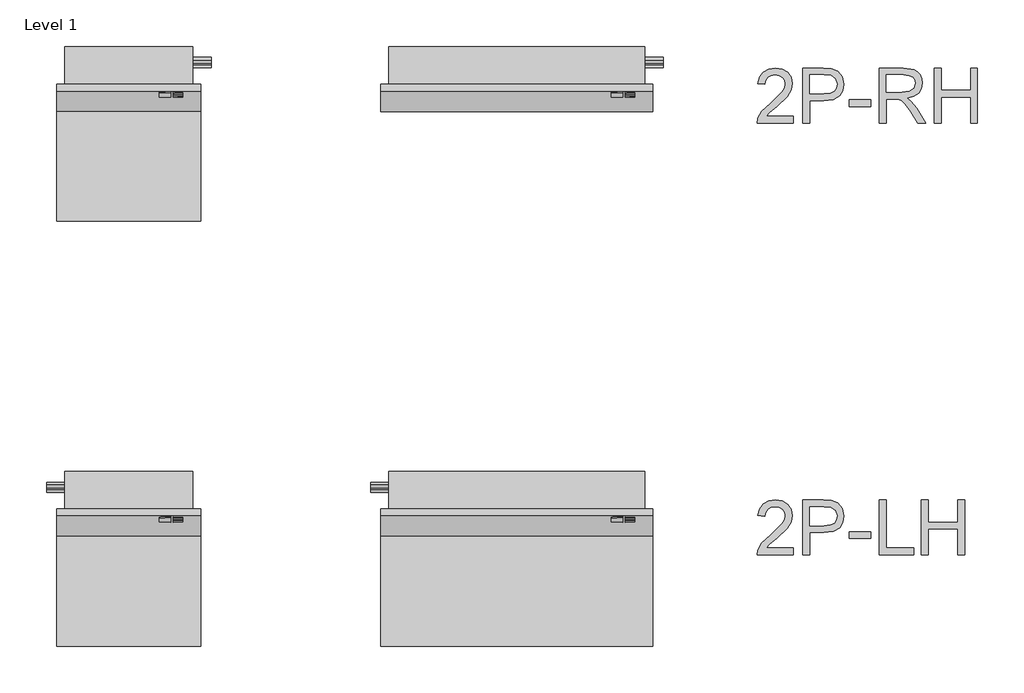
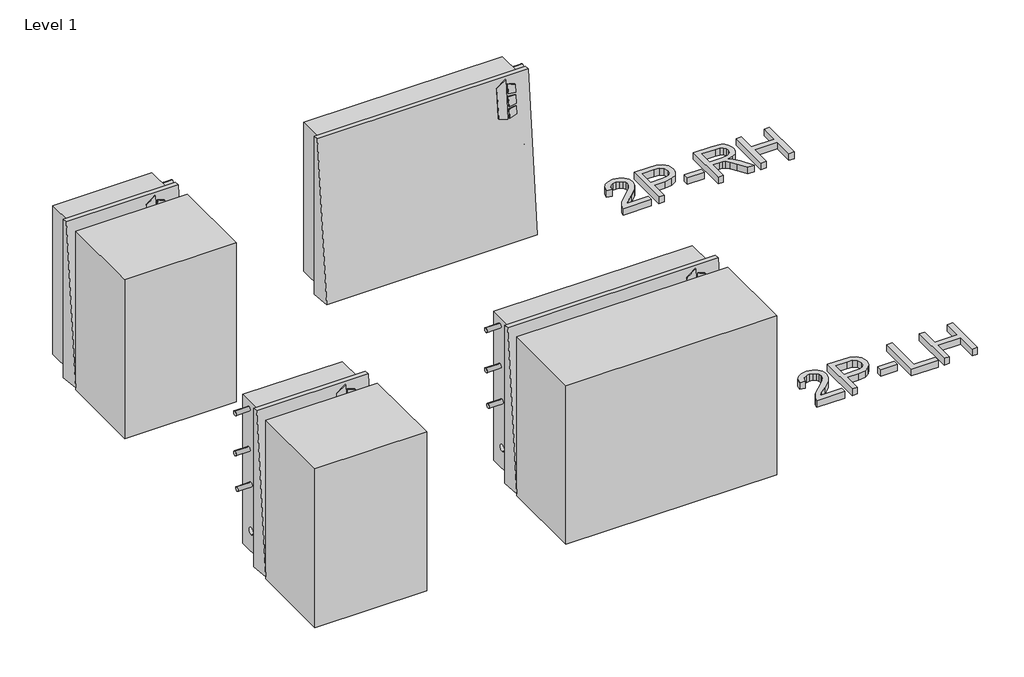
# One storey: 6 proxies.
"""IFC4 building model written with IfcOpenShell, lengths in millimetres."""

from ifc_helpers import new_model, si_unit, origin, origin_with_axes, place, context, project, spatial, polyline, outline, extrude, transform, mapped, element, save
from components import mechanical_equipment_5d187f2d, mechanical_equipment_5f7a3c42, mechanical_equipment_e7c3ba8e, mechanical_equipment_0fc9f988

model = new_model("IFC4")

# Units and contexts
model_context = context("Model", 3, world=origin())
ifc_project = project(units=[si_unit("LENGTHUNIT", "METRE", prefix="MILLI")], contexts=[model_context])

# Site, building, storey
site = spatial("IfcSite", under=ifc_project)
building = spatial("IfcBuilding", under=site)
storey = spatial("IfcBuildingStorey", under=building, Name="Level 1", Elevation=0.0)

# Proxies
placement = place(None, origin())
mechanical_equipment_shape = mechanical_equipment_5d187f2d(model_context)
element("IfcBuildingElementProxy", 1, Name="Exposed_Wall_Mounted_Fan_Coil_Unit_-_STY_-_IEC_-_2-Pipe_RH_2022 : Size 01 - 115V/60Hz/1Ph - 2 Row Coil", ObjectType="Exposed_Wall_Mounted_Fan_Coil_Unit_-_STY_-_IEC_-_2-Pipe_RH_2022 : Size 01 - 115V/60Hz/1Ph - 2 Row Coil", at=placement, inside=storey, context=model_context, shape_type="MappedRepresentation", body=[
    mapped(mechanical_equipment_shape, transform((-20609.6205467, 2912.9310883, 0.0), x_axis=(1.0, 0.0, 0.0), y_axis=(0.0, 1.0, 0.0), z_axis=(0.0, 0.0, 1.0))),
])
mechanical_equipment_2_shape = mechanical_equipment_5f7a3c42(model_context)
element("IfcBuildingElementProxy", 2, Name="Exposed_Wall_Mounted_Fan_Coil_Unit_-_STY_-_IEC_-_2-Pipe_RH_2022 : Size 03 - 115V/60Hz/1Ph - 2 Row Coil", ObjectType="Exposed_Wall_Mounted_Fan_Coil_Unit_-_STY_-_IEC_-_2-Pipe_RH_2022 : Size 03 - 115V/60Hz/1Ph - 2 Row Coil", at=placement, inside=storey, context=model_context, shape_type="MappedRepresentation", body=[
    mapped(mechanical_equipment_2_shape, transform((-19354.0876299, 2912.9310883, 0.0), x_axis=(1.0, 0.0, 0.0), y_axis=(0.0, 1.0, 0.0), z_axis=(0.0, 0.0, 1.0))),
])
mechanical_equipment_3_shape = mechanical_equipment_e7c3ba8e(model_context)
element("IfcBuildingElementProxy", 3, Name="Exposed_Wall_Mounted_Fan_Coil_Unit_-_STY_-_IEC_-_2-Pipe_LH_2022 : Size 01 - 115V/60Hz/1Ph - 2 Row Coil", ObjectType="Exposed_Wall_Mounted_Fan_Coil_Unit_-_STY_-_IEC_-_2-Pipe_LH_2022 : Size 01 - 115V/60Hz/1Ph - 2 Row Coil", at=placement, inside=storey, context=model_context, shape_type="MappedRepresentation", body=[
    mapped(mechanical_equipment_3_shape, transform((-20609.6205467, 1731.8310883, 0.0), x_axis=(1.0, 0.0, 0.0), y_axis=(0.0, 1.0, 0.0), z_axis=(0.0, 0.0, 1.0))),
])
mechanical_equipment_4_shape = mechanical_equipment_0fc9f988(model_context)
element("IfcBuildingElementProxy", 4, Name="Exposed_Wall_Mounted_Fan_Coil_Unit_-_STY_-_IEC_-_2-Pipe_LH_2022 : Size 03 - 115V/60Hz/1Ph - 2 Row Coil", ObjectType="Exposed_Wall_Mounted_Fan_Coil_Unit_-_STY_-_IEC_-_2-Pipe_LH_2022 : Size 03 - 115V/60Hz/1Ph - 2 Row Coil", at=placement, inside=storey, context=model_context, shape_type="MappedRepresentation", body=[
    mapped(mechanical_equipment_4_shape, transform((-19354.0876299, 1731.8310883, 0.0), x_axis=(1.0, 0.0, 0.0), y_axis=(0.0, 1.0, 0.0), z_axis=(0.0, 0.0, 1.0))),
])
element("IfcBuildingElementProxy", 5, Name="24\" Arial", ObjectType="24\" Arial", at=placement, inside=storey, context=model_context, shape_type="SweptSolid", body=[
    extrude(outline(polyline([(-17913.2632307, 1280.7349641), (-17913.2632307, 1261.598037), (-18013.7320979, 1261.598037), (-18011.6763733, 1274.7920512), (-18000.0521852, 1295.1063478), (-17976.0936495, 1317.289485), (-17943.0525488, 1349.1719045), (-17936.8573425, 1360.1606869), (-17934.7922737, 1370.8504547), (-17936.7405399, 1380.4329346), (-17942.5853387, 1388.3988674), (-17951.5697896, 1393.7671118), (-17962.9370121, 1395.5565266), (-17974.8742311, 1393.8091607), (-17984.1483522, 1388.567063), (-17990.133314, 1380.2413784), (-17992.2030549, 1369.2432519), (-18011.339982, 1371.6353678), (-18006.7005854, 1390.1462333), (-17996.6695838, 1403.6672945), (-17981.7702526, 1411.9369139), (-17962.5258672, 1414.6934537), (-17943.1413188, 1411.6285552), (-17928.2700202, 1402.4338598), (-17918.809015, 1388.6978818), (-17915.6553466, 1372.0091359), (-17919.0566364, 1353.8626943), (-17930.3631216, 1335.0995353), (-17957.7790123, 1308.8797026), (-17979.7939538, 1290.4716233), (-17988.427997, 1280.7349641), (-17913.2632307, 1280.7349641)])), origin_with_axes(), (0.0, 0.0, 1.0), 25.4),
    extrude(outline(polyline([(-17886.949956, 1261.598037), (-17886.949956, 1414.6934537), (-17830.2119573, 1414.6934537), (-17807.3373491, 1413.2357581), (-17788.7423858, 1406.0780988), (-17776.6883644, 1391.2768818), (-17772.1283935, 1370.401933), (-17775.2073082, 1352.3582776), (-17784.4440526, 1337.3234555), (-17801.7168112, 1327.1756514), (-17828.9037689, 1323.7930501), (-17867.8130289, 1323.7930501), (-17867.8130289, 1261.598037), (-17886.949956, 1261.598037)]), holes=[polyline([(-17867.8130289, 1342.9299771), (-17827.7824646, 1342.9299771), (-17810.8133925, 1344.6866872), (-17799.6003493, 1349.9568175), (-17793.3490777, 1358.413321), (-17791.2653205, 1369.7291504), (-17796.1803711, 1385.5769182), (-17809.0940592, 1394.2483382), (-17828.2309863, 1395.5565266), (-17867.8130289, 1395.5565266), (-17867.8130289, 1342.9299771)])]), origin_with_axes(), (0.0, 0.0, 1.0), 25.4),
    extrude(outline(polyline([(-17757.7756981, 1307.0482389), (-17757.7756981, 1326.1851659), (-17697.972801, 1326.1851659), (-17697.972801, 1307.0482389), (-17757.7756981, 1307.0482389)])), origin_with_axes(), (0.0, 0.0, 1.0), 25.4),
    extrude(outline(polyline([(-17674.0516422, 1261.598037), (-17674.0516422, 1414.6934537), (-17654.9147151, 1414.6934537), (-17654.9147151, 1280.7349641), (-17578.3670067, 1280.7349641), (-17578.3670067, 1261.598037), (-17674.0516422, 1261.598037)])), origin_with_axes(), (0.0, 0.0, 1.0), 25.4),
    extrude(outline(polyline([(-17556.8379638, 1261.598037), (-17556.8379638, 1414.6934537), (-17537.7010367, 1414.6934537), (-17537.7010367, 1352.4984407), (-17456.3690966, 1352.4984407), (-17456.3690966, 1414.6934537), (-17437.2321695, 1414.6934537), (-17437.2321695, 1261.598037), (-17456.3690966, 1261.598037), (-17456.3690966, 1333.3615136), (-17537.7010367, 1333.3615136), (-17537.7010367, 1261.598037), (-17556.8379638, 1261.598037)])), origin_with_axes(), (0.0, 0.0, 1.0), 25.4),
])
element("IfcBuildingElementProxy", 6, Name="24\" Arial", ObjectType="24\" Arial", at=placement, inside=storey, context=model_context, shape_type="SweptSolid", body=[
    extrude(outline(polyline([(-17913.2632307, 2481.1256517), (-17913.2632307, 2461.9887246), (-18013.7320979, 2461.9887246), (-18011.6763733, 2475.1827388), (-18000.0521852, 2495.4970354), (-17976.0936495, 2517.6801726), (-17943.0525488, 2549.5625921), (-17936.8573425, 2560.5513744), (-17934.7922737, 2571.2411423), (-17936.7405399, 2580.8236222), (-17942.5853387, 2588.7895549), (-17951.5697896, 2594.1577994), (-17962.9370121, 2595.9472142), (-17974.8742311, 2594.1998483), (-17984.1483522, 2588.9577506), (-17990.133314, 2580.632066), (-17992.2030549, 2569.6339394), (-18011.339982, 2572.0260553), (-18006.7005854, 2590.5369208), (-17996.6695838, 2604.0579821), (-17981.7702526, 2612.3276015), (-17962.5258672, 2615.0841413), (-17943.1413188, 2612.0192428), (-17928.2700202, 2602.8245474), (-17918.809015, 2589.0885694), (-17915.6553466, 2572.3998234), (-17919.0566364, 2554.2533818), (-17930.3631216, 2535.4902229), (-17957.7790123, 2509.2703902), (-17979.7939538, 2490.8623109), (-17988.427997, 2481.1256517), (-17913.2632307, 2481.1256517)])), origin_with_axes(), (0.0, 0.0, 1.0), 25.4),
    extrude(outline(polyline([(-17886.949956, 2461.9887246), (-17886.949956, 2615.0841413), (-17830.2119573, 2615.0841413), (-17807.3373491, 2613.6264457), (-17788.7423858, 2606.4687864), (-17776.6883644, 2591.6675694), (-17772.1283935, 2570.7926206), (-17775.2073082, 2552.7489652), (-17784.4440526, 2537.7141431), (-17801.7168112, 2527.566339), (-17828.9037689, 2524.1837376), (-17867.8130289, 2524.1837376), (-17867.8130289, 2461.9887246), (-17886.949956, 2461.9887246)]), holes=[polyline([(-17867.8130289, 2543.3206647), (-17827.7824646, 2543.3206647), (-17810.8133925, 2545.0773748), (-17799.6003493, 2550.3475051), (-17793.3490777, 2558.8040085), (-17791.2653205, 2570.119838), (-17796.1803711, 2585.9676057), (-17809.0940592, 2594.6390258), (-17828.2309863, 2595.9472142), (-17867.8130289, 2595.9472142), (-17867.8130289, 2543.3206647)])]), origin_with_axes(), (0.0, 0.0, 1.0), 25.4),
    extrude(outline(polyline([(-17757.7756981, 2507.4389264), (-17757.7756981, 2526.5758535), (-17697.972801, 2526.5758535), (-17697.972801, 2507.4389264), (-17757.7756981, 2507.4389264)])), origin_with_axes(), (0.0, 0.0, 1.0), 25.4),
    extrude(outline(polyline([(-17674.0516422, 2461.9887246), (-17674.0516422, 2615.0841413), (-17608.0815712, 2615.0841413), (-17577.4512749, 2610.9540037), (-17568.0229744, 2605.2353516), (-17560.7064637, 2596.3396707), (-17556.0110018, 2585.3088394), (-17554.4458479, 2573.1847365), (-17557.0388641, 2558.1031933), (-17564.8179129, 2545.6006502), (-17578.0165991, 2536.4339873), (-17596.868528, 2531.3600853), (-17585.9918761, 2523.1745637), (-17570.4804997, 2503.4769845), (-17544.952138, 2461.9887246), (-17567.1913403, 2461.9887246), (-17587.1131804, 2493.7216369), (-17601.5032526, 2514.7274045), (-17611.6136799, 2524.6509478), (-17620.7149333, 2528.2951868), (-17631.8158461, 2528.9679694), (-17654.9147151, 2528.9679694), (-17654.9147151, 2461.9887246), (-17674.0516422, 2461.9887246)]), holes=[polyline([(-17654.9147151, 2548.1048965), (-17612.08089, 2548.1048965), (-17590.2341441, 2550.8147153), (-17577.825043, 2559.4861353), (-17573.582775, 2572.4745771), (-17575.6057948, 2581.8094355), (-17581.6748545, 2589.3315187), (-17592.117001, 2594.2932903), (-17607.2592814, 2595.9472142), (-17654.9147151, 2595.9472142), (-17654.9147151, 2548.1048965)])]), origin_with_axes(), (0.0, 0.0, 1.0), 25.4),
    extrude(outline(polyline([(-17520.9562255, 2461.9887246), (-17520.9562255, 2615.0841413), (-17501.8192984, 2615.0841413), (-17501.8192984, 2552.8891282), (-17420.4873583, 2552.8891282), (-17420.4873583, 2615.0841413), (-17401.3504312, 2615.0841413), (-17401.3504312, 2461.9887246), (-17420.4873583, 2461.9887246), (-17420.4873583, 2533.7522012), (-17501.8192984, 2533.7522012), (-17501.8192984, 2461.9887246), (-17520.9562255, 2461.9887246)])), origin_with_axes(), (0.0, 0.0, 1.0), 25.4),
])

save(model, "model.ifc")
